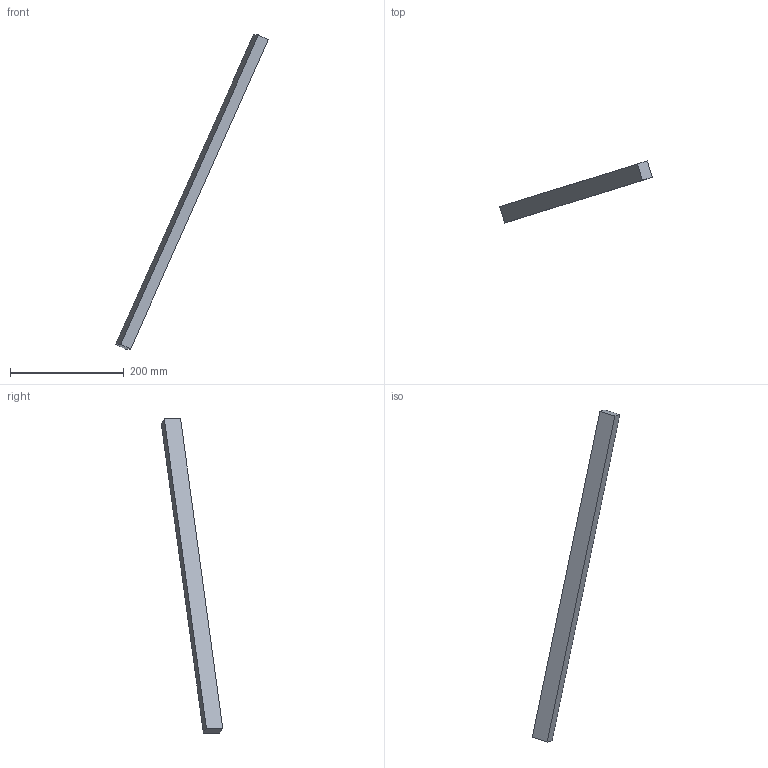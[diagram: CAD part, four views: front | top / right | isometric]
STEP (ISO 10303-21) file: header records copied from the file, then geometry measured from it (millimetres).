
FILE_DESCRIPTION(('FreeCAD Model'),'2;1');
FILE_NAME('Open CASCADE Shape Model','2026-09-11T23:25:00',('FreeCAD'),( 'FreeCAD'),'Open CASCADE STEP processor 7.8','FreeCAD','Unknown');
FILE_SCHEMA(('AUTOMOTIVE_DESIGN { 1 0 10303 214 1 1 1 1 }'));
Length unit declared in the file: millimetre
Products named in the file (1): Open CASCADE STEP translator 7.8 3
Bounding box: 268.6 x 108.13 x 552.24 mm (x, y, z)
Volume: 360000 mm3; surface area: 61200 mm2
Topology: 1 solids, 1 shells, 6 faces, 12 edges, 8 vertices
Faces by surface type: plane 6
Entity records: 166 total; most frequent: CARTESIAN_POINT 27, DIRECTION 26, ORIENTED_EDGE 24, EDGE_CURVE 12, LINE 12, VECTOR 12, VERTEX_POINT 8, AXIS2_PLACEMENT_3D 7
